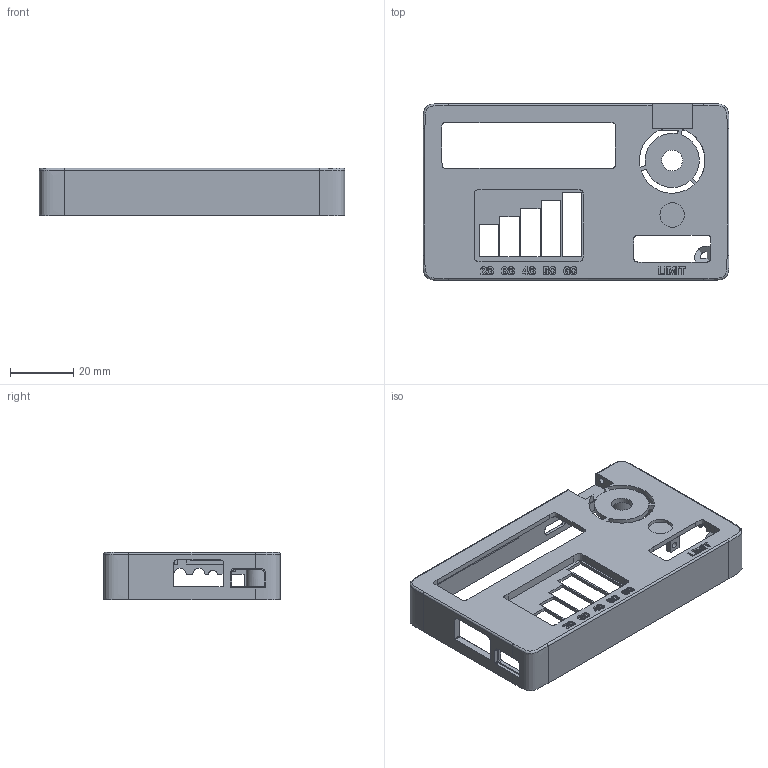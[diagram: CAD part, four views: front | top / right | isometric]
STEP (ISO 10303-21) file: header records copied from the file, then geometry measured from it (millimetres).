
FILE_DESCRIPTION(('Open CASCADE Model'),'2;1');
FILE_NAME('Open CASCADE Shape Model','2026-10-19T00:08:45',('Author'),( 'Open CASCADE'),'Open CASCADE STEP processor 7.9','Open CASCADE 7.9' ,'Unknown');
FILE_SCHEMA(('AUTOMOTIVE_DESIGN { 1 0 10303 214 1 1 1 1 }'));
Products named in the file (1): Open CASCADE STEP translator 7.9 1
Bounding box: 97 x 56 x 15 mm (x, y, z)
Surface area: 15204.9 mm2 (no closed solid volume)
Topology: 0 solids, 4 shells, 1298 faces, 3852 edges, 2575 vertices
Faces by surface type: plane 1235, cylinder 37, extrusion 20, bspline 6
Full cylindrical faces by diameter (mm): 1.9 x3, 2.05 x1, 4 x3, 6.6 x1, 7.5 x3, 7.75 x1, 9 x1
Entity records: 111315 total; most frequent: CARTESIAN_POINT 35527, DIRECTION 13729, VECTOR 10996, LINE 10976, ORIENTED_EDGE 7577, PCURVE 7577, DEFINITIONAL_REPRESENTATION 7577, EDGE_CURVE 3852
